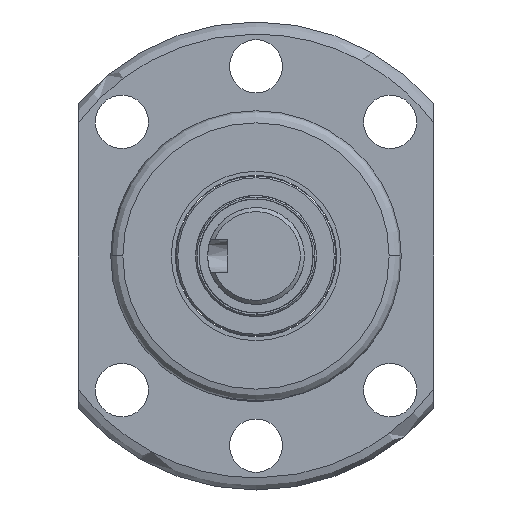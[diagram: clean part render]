
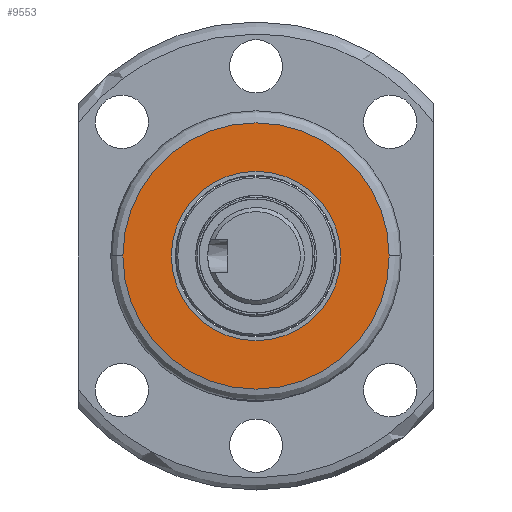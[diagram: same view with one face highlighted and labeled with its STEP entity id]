
A CAD part, left-side view. The second image highlights one B-rep face of the part: STEP entity #9553.
In plain terms, the highlighted planar face has unit normal (-1, 0, 0).
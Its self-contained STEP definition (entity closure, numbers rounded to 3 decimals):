
#39 = EDGE_CURVE ( 'NONE', #5289, #5472, #12833, .T. ) ;
#448 = DIRECTION ( 'NONE',  ( 0., 0., 1. ) ) ;
#839 = CIRCLE ( 'NONE', #13180, 10.5 ) ;
#883 = FACE_BOUND ( 'NONE', #6485, .T. ) ;
#985 = DIRECTION ( 'NONE',  ( 1., 0., 0. ) ) ;
#1243 = AXIS2_PLACEMENT_3D ( 'NONE', #13135, #985, #4548 ) ;
#1846 = CARTESIAN_POINT ( 'NONE',  ( -66., -16.5, 0. ) ) ;
#2604 = ORIENTED_EDGE ( 'NONE', *, *, #7419, .T. ) ;
#2691 = CARTESIAN_POINT ( 'NONE',  ( -66., 16.5, 0. ) ) ;
#2706 = CARTESIAN_POINT ( 'NONE',  ( -66., 0., 0. ) ) ;
#2840 = EDGE_CURVE ( 'NONE', #8729, #13761, #13581, .T. ) ;
#3171 = CARTESIAN_POINT ( 'NONE',  ( -66., 0., -10.5 ) ) ;
#4548 = DIRECTION ( 'NONE',  ( 0., -1., 0. ) ) ;
#4593 = PLANE ( 'NONE',  #7904 ) ;
#5289 = VERTEX_POINT ( 'NONE', #11226 ) ;
#5315 = DIRECTION ( 'NONE',  ( 0., -1., 0. ) ) ;
#5361 = CIRCLE ( 'NONE', #6619, 16.5 ) ;
#5454 = CARTESIAN_POINT ( 'NONE',  ( -66., 14.75, 0. ) ) ;
#5472 = VERTEX_POINT ( 'NONE', #3171 ) ;
#6485 = EDGE_LOOP ( 'NONE', ( #10462, #2604 ) ) ;
#6619 = AXIS2_PLACEMENT_3D ( 'NONE', #2706, #8640, #5315 ) ;
#6680 = DIRECTION ( 'NONE',  ( 1., 0., 0. ) ) ;
#7419 = EDGE_CURVE ( 'NONE', #5472, #5289, #839, .T. ) ;
#7702 = CARTESIAN_POINT ( 'NONE',  ( -66., 0., 0. ) ) ;
#7753 = ORIENTED_EDGE ( 'NONE', *, *, #13602, .F. ) ;
#7904 = AXIS2_PLACEMENT_3D ( 'NONE', #5454, #10266, #9090 ) ;
#8389 = DIRECTION ( 'NONE',  ( 1., 0., 0. ) ) ;
#8640 = DIRECTION ( 'NONE',  ( 1., 0., 0. ) ) ;
#8729 = VERTEX_POINT ( 'NONE', #2691 ) ;
#9090 = DIRECTION ( 'NONE',  ( 0., 1., 0. ) ) ;
#9553 = ADVANCED_FACE ( 'NONE', ( #883, #15400 ), #4593, .T. ) ;
#9802 = ORIENTED_EDGE ( 'NONE', *, *, #2840, .F. ) ;
#10266 = DIRECTION ( 'NONE',  ( -1., 0., 0. ) ) ;
#10386 = EDGE_LOOP ( 'NONE', ( #7753, #9802 ) ) ;
#10462 = ORIENTED_EDGE ( 'NONE', *, *, #39, .T. ) ;
#10757 = CARTESIAN_POINT ( 'NONE',  ( -66., 0., 0. ) ) ;
#11226 = CARTESIAN_POINT ( 'NONE',  ( -66., 0., 10.5 ) ) ;
#12833 = CIRCLE ( 'NONE', #15359, 10.5 ) ;
#13135 = CARTESIAN_POINT ( 'NONE',  ( -66., 0., 0. ) ) ;
#13180 = AXIS2_PLACEMENT_3D ( 'NONE', #7702, #6680, #448 ) ;
#13206 = DIRECTION ( 'NONE',  ( 0., 0., 1. ) ) ;
#13581 = CIRCLE ( 'NONE', #1243, 16.5 ) ;
#13602 = EDGE_CURVE ( 'NONE', #13761, #8729, #5361, .T. ) ;
#13761 = VERTEX_POINT ( 'NONE', #1846 ) ;
#15359 = AXIS2_PLACEMENT_3D ( 'NONE', #10757, #8389, #13206 ) ;
#15400 = FACE_OUTER_BOUND ( 'NONE', #10386, .T. ) ;
